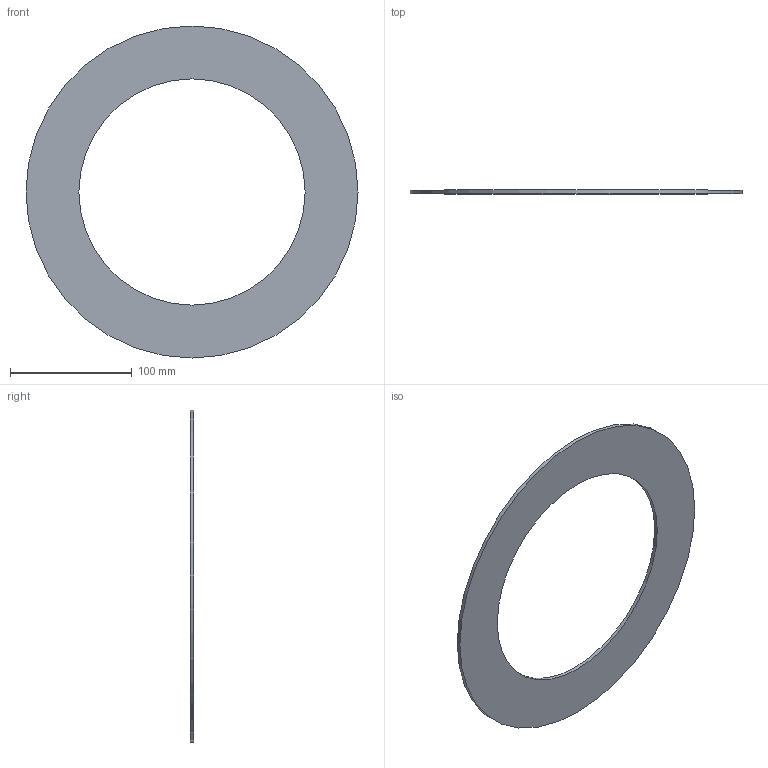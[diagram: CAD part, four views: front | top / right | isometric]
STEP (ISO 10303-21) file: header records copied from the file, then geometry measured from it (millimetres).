
FILE_DESCRIPTION(/* description */ ('Unknown'),/* implementation_level */ '2;1');
FILE_NAME(/* name */ 'GUA.225C',/* time_stamp */ '2021-04-01T12:30:40+02:00',/* author */ ('Unknown'),/* organization */ ('Unknown'),/* preprocessor_version */ 'ST-DEVELOPER v16.7',/* originating_system */ 'Solid Edge',/* authorisation */ 'Unknown');
FILE_SCHEMA (('AUTOMOTIVE_DESIGN {1 0 10303 214 3 1 1}'));
Length unit declared in the file: millimetre
Products named in the file (1): GUA.225C
Bounding box: 273 x 3 x 273 mm (x, y, z)
Volume: 94089.9 mm3; surface area: 67052.6 mm2
Topology: 1 solids, 1 shells, 4 faces, 6 edges, 4 vertices
Faces by surface type: cylinder 2, plane 2
Full cylindrical faces by diameter (mm): 186 x1, 273 x1
Entity records: 118 total; most frequent: DIRECTION 18, CARTESIAN_POINT 13, AXIS2_PLACEMENT_3D 9, ORIENTED_EDGE 8, EDGE_LOOP 8, FACE_BOUND 8, EDGE_CURVE 4, VERTEX_POINT 4
